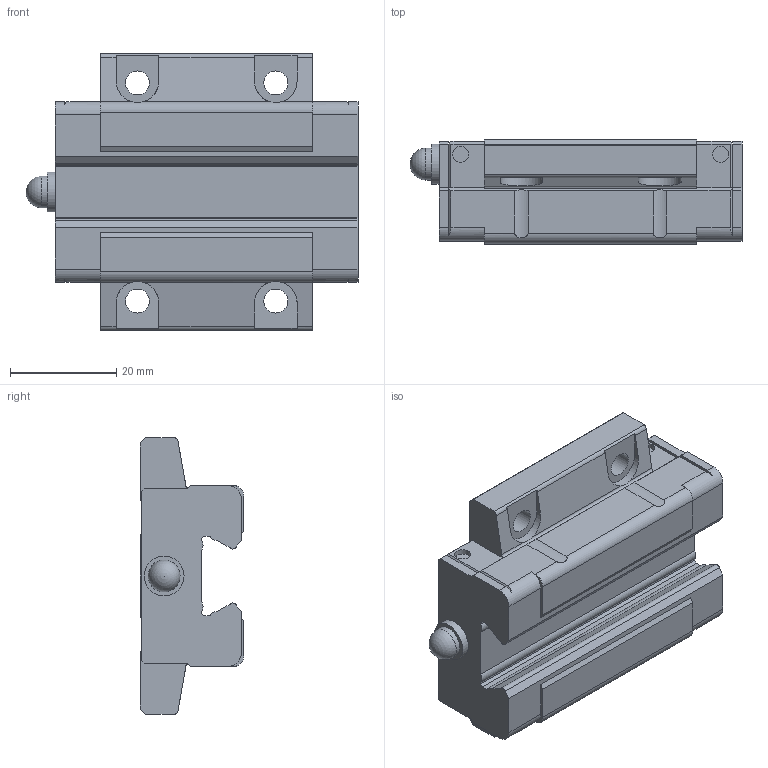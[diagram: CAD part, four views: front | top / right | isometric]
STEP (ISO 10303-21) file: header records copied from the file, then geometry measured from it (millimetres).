
FILE_DESCRIPTION(/* description */ ('STEP AP214'),/* implementation_level */ '2;1');
FILE_NAME(/* name */ 'SSR15XTB1SS(GK) BLOCK(1PB1021B)',/* time_stamp */ '2023-06-01T10:51:59+02:00',/* author */ ('License CC BY-ND 4.0'),/* organization */ ('CADENAS'),/* preprocessor_version */ 'ST-DEVELOPER v19.3',/* originating_system */ 'PARTsolutions',/* authorisation */ ' ');
FILE_SCHEMA (('AUTOMOTIVE_DESIGN {1 0 10303 214 3 1 1}'));
Length unit declared in the file: millimetre
Products named in the file (3): SSR15XTB1SS(GK) BLOCK(1PB1021B); PB1021B-SSR_grease_nipple_joint; SSR15XTBYSSPB1021B Slide15-25
Assembly tree (2 placements, depth 2):
  SSR15XTB1SS(GK) BLOCK(1PB1021B)
    PB1021B-SSR_grease_nipple_joint
    SSR15XTBYSSPB1021B Slide15-25
Bounding box: 62.4 x 19.5 x 52 mm (x, y, z)
Volume: 36090.7 mm3; surface area: 10579.5 mm2
Topology: 2 solids, 2 shells, 164 faces, 452 edges, 300 vertices
Faces by surface type: plane 120, cylinder 43, sphere 1
Full cylindrical faces by diameter (mm): 3 x4, 4 x3, 4.5 x4, 6 x1, 7.5 x1
Entity records: 5197 total; most frequent: CARTESIAN_POINT 933, ORIENTED_EDGE 864, DIRECTION 860, EDGE_CURVE 432, LINE 322, VECTOR 322, VERTEX_POINT 294, AXIS2_PLACEMENT_3D 269
